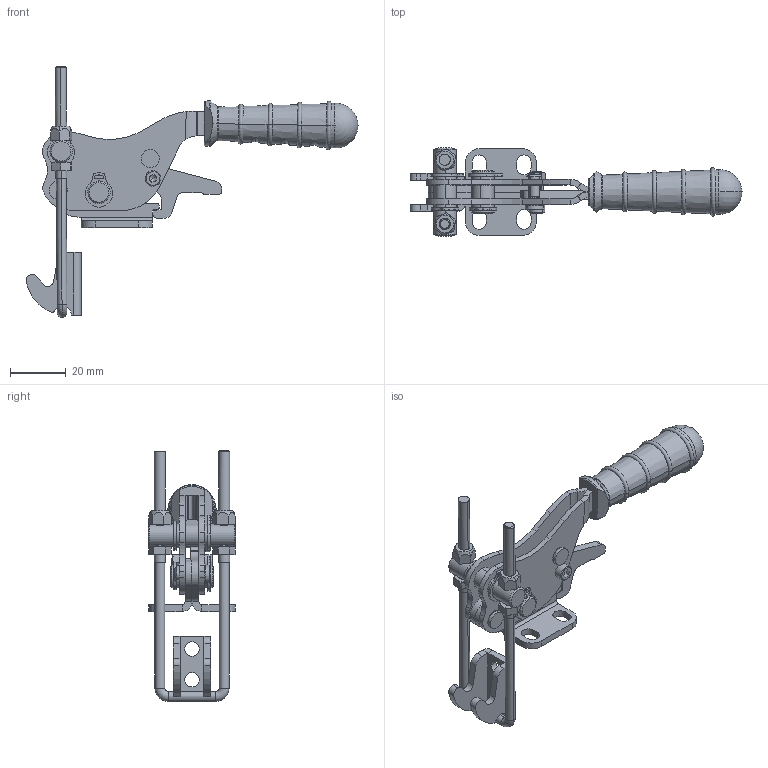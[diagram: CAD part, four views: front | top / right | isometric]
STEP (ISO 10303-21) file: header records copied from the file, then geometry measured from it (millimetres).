
FILE_DESCRIPTION (( 'STEP AP203' ), '1' );
FILE_NAME ('13204_Y_K.STEP', '2023-03-22T10:06:35', ( '' ), ( '' ), 'SwSTEP 2.0', 'SolidWorks 2023', '' );
FILE_SCHEMA (( 'CONFIG_CONTROL_DESIGN' ));
Length unit declared in the file: millimetre
Products named in the file (17): Mirror13104_HK_Varsayılan; M3 Somun; M4x40_U_KANCA_Varsayılan; M3x12 Imbus Civata; DIN 471 Ø8 Segman_Circlip DIN 471 - 8 x 0.8; Ø8xM4 U Kanca_Varsayılan; 13104_Y_G_Varsayılan; 13204_Y_K; 13104 Kilit_Varsayılan; M4_Fiberli_Somun; C45_T(TUTAMAK)_Varsayılan; 13104_HK_Varsayılan; M4_S; Ø8xM4Mil Otomatı_Varsayılan; M4_U_KANCA; Ø4x12,5_P(PERÇİN)_Varsayılan; Mirror13104_Y_G_Varsayılan
Assembly tree (22 placements, depth 2):
  13204_Y_K
    13104_Y_G_Varsayılan
    13104_HK_Varsayılan
    13104 Kilit_Varsayılan
    C45_T(TUTAMAK)_Varsayılan
    Mirror13104_Y_G_Varsayılan
    Mirror13104_HK_Varsayılan
    Ø8xM4 U Kanca_Varsayılan
    Ø4x12,5_P(PERÇİN)_Varsayılan  x2
    M3x12 Imbus Civata
    M3 Somun
    M4x40_U_KANCA_Varsayılan
    Ø8xM4Mil Otomatı_Varsayılan
    M4_S  x2
    M4_Fiberli_Somun  x2
    M4_U_KANCA
    DIN 471 Ø8 Segman_Circlip DIN 471 - 8 x 0.8  x4
Bounding box: 118.88 x 31.5 x 89.76 mm (x, y, z)
Volume: 23533.6 mm3; surface area: 23155.4 mm2
Topology: 22 solids, 22 shells, 711 faces, 1756 edges, 1101 vertices
Faces by surface type: plane 308, cylinder 268, cone 81, torus 46, bspline 6, sphere 2
Entity records: 18374 total; most frequent: CARTESIAN_POINT 3645, DIRECTION 2817, ORIENTED_EDGE 2584, EDGE_CURVE 1292, AXIS2_PLACEMENT_3D 1088, VERTEX_POINT 806, LINE 641, VECTOR 641
